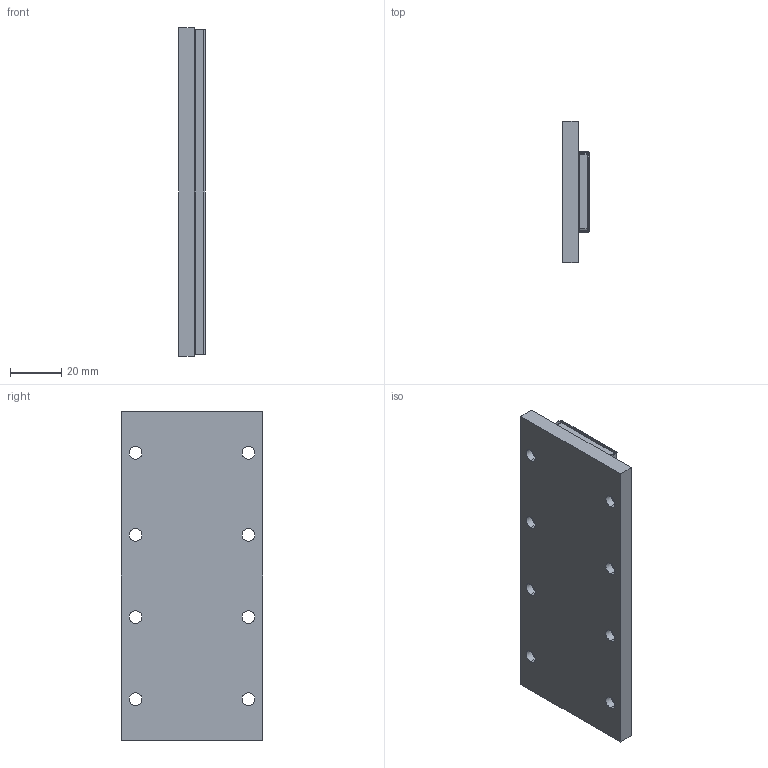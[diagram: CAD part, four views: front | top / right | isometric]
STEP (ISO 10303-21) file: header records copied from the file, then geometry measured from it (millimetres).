
FILE_DESCRIPTION (( 'STEP AP214' ), '1' );
FILE_NAME ('PIXM030-TL128-C.STEP', '2019-03-08T10:31:19', ( '' ), ( '' ), 'SwSTEP 2.0', 'SolidWorks 2016', '' );
FILE_SCHEMA (( 'AUTOMOTIVE_DESIGN' ));
Length unit declared in the file: millimetre
Products named in the file (4): 001SM030LXXX02_TL128; 001SM030000001-CUSTOMER_TL128; 001SM030LXXX01_TL128; PIXM030-TL128-C
Assembly tree (3 placements, depth 2):
  PIXM030-TL128-C
    001SM030LXXX01_TL128
    001SM030000001-CUSTOMER_TL128
    001SM030LXXX02_TL128
Bounding box: 10.3 x 55 x 128 mm (x, y, z)
Volume: 56868.2 mm3; surface area: 35292.6 mm2
Topology: 3 solids, 3 shells, 105 faces, 238 edges, 140 vertices
Faces by surface type: plane 49, cylinder 48, sphere 8
Entity records: 3046 total; most frequent: DIRECTION 548, CARTESIAN_POINT 481, ORIENTED_EDGE 460, EDGE_CURVE 230, AXIS2_PLACEMENT_3D 207, VERTEX_POINT 140, LINE 134, VECTOR 134
